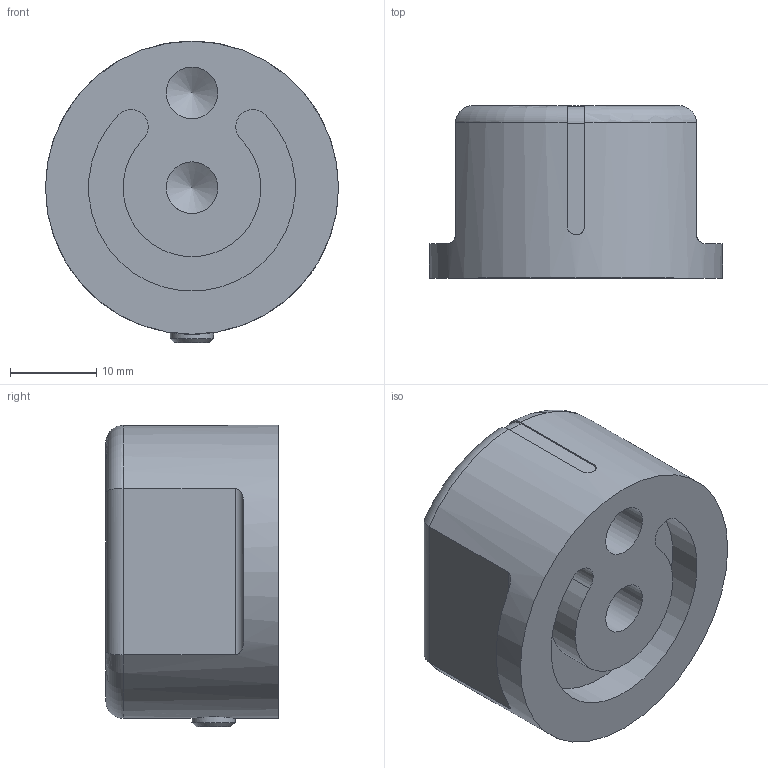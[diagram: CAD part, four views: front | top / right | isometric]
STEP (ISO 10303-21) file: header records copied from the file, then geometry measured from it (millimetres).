
FILE_DESCRIPTION( ( 'STEP AP203' ), '1' );
FILE_NAME( 'C:/Temp/Ganter_Step_05_03_2020/data/1_4/gn_729/Control knob GN 729-34-B6.stp', '2020-03-05T10:51:01', ( 'License CC BY-ND 4.0' ), ( 'CADENAS' ), ' ', 'PARTsolutions', ' ' );
FILE_SCHEMA( ( 'CONFIG_CONTROL_DESIGN' ) );
Length unit declared in the file: millimetre
Products named in the file (1): _Control knob GN 729-34-B6
Bounding box: 34 x 20 x 35 mm (x, y, z)
Volume: 15321.5 mm3; surface area: 4732.5 mm2
Topology: 1 solids, 1 shells, 43 faces, 108 edges, 71 vertices
Faces by surface type: plane 20, cylinder 16, cone 4, torus 3
Full cylindrical faces by diameter (mm): 5 x2, 6 x2, 34 x1
Entity records: 1542 total; most frequent: CARTESIAN_POINT 525, DIRECTION 196, ORIENTED_EDGE 190, EDGE_CURVE 95, AXIS2_PLACEMENT_3D 74, VERTEX_POINT 69, EDGE_LOOP 56, FACE_OUTER_BOUND 48
